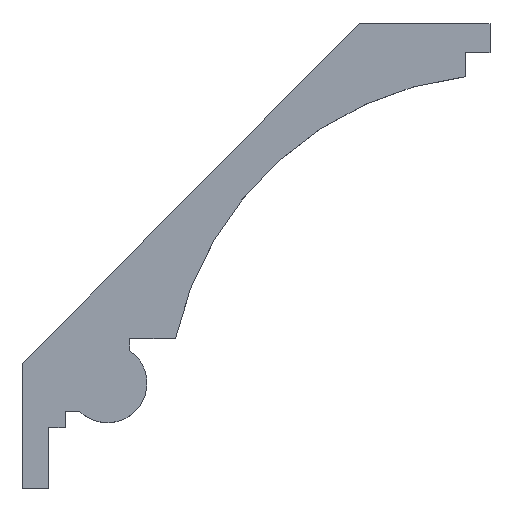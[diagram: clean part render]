
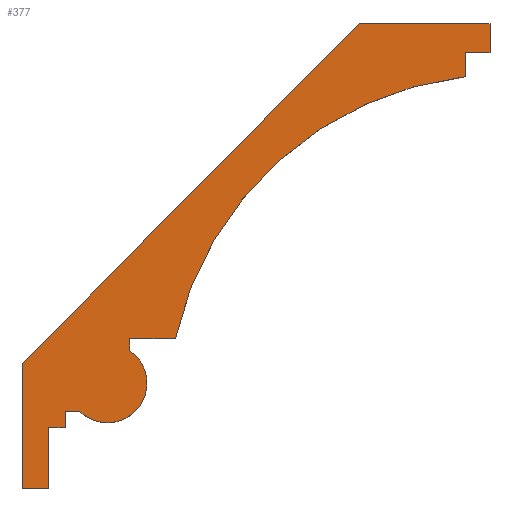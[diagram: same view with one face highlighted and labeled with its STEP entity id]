
A CAD part, top view. The second image highlights one B-rep face of the part: STEP entity #377.
In plain terms, the highlighted planar face has unit normal (0, 0, 1).
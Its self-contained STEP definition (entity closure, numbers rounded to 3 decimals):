
#3 = FACE_OUTER_BOUND ( 'NONE', #385, .T. ) ;
#12 = VERTEX_POINT ( 'NONE', #52 ) ;
#13 = VERTEX_POINT ( 'NONE', #378 ) ;
#18 = VECTOR ( 'NONE', #345, 1000. ) ;
#20 = EDGE_CURVE ( 'NONE', #12, #162, #148, .T. ) ;
#24 = LINE ( 'NONE', #540, #18 ) ;
#30 = VECTOR ( 'NONE', #215, 1000. ) ;
#31 = CARTESIAN_POINT ( 'NONE',  ( 124.903, 49.358, 10. ) ) ;
#46 = ORIENTED_EDGE ( 'NONE', *, *, #471, .T. ) ;
#48 = CARTESIAN_POINT ( 'NONE',  ( 57.248, 46.8, 10. ) ) ;
#50 = CARTESIAN_POINT ( 'NONE',  ( 67.143, 60.523, 10. ) ) ;
#52 = CARTESIAN_POINT ( 'NONE',  ( 50.557, 56.566, 10. ) ) ;
#60 = CARTESIAN_POINT ( 'NONE',  ( 67.143, 60.523, 10. ) ) ;
#67 = LINE ( 'NONE', #533, #528 ) ;
#69 = CARTESIAN_POINT ( 'NONE',  ( 59.478, 49.248, 10. ) ) ;
#70 = VERTEX_POINT ( 'NONE', #436 ) ;
#81 = CARTESIAN_POINT ( 'NONE',  ( 118.912, 100.907, 10. ) ) ;
#89 = ORIENTED_EDGE ( 'NONE', *, *, #487, .T. ) ;
#91 = DIRECTION ( 'NONE',  ( -1., 0., 0. ) ) ;
#97 = ORIENTED_EDGE ( 'NONE', *, *, #20, .T. ) ;
#102 = CARTESIAN_POINT ( 'NONE',  ( 50.557, 37.407, 10. ) ) ;
#103 = VERTEX_POINT ( 'NONE', #60 ) ;
#109 = DIRECTION ( 'NONE',  ( 0., 0., 1. ) ) ;
#121 = VECTOR ( 'NONE', #479, 1000. ) ;
#123 = DIRECTION ( 'NONE',  ( -0.704, -0.711, 0. ) ) ;
#135 = DIRECTION ( 'NONE',  ( 1., 0., 0. ) ) ;
#141 = EDGE_CURVE ( 'NONE', #264, #394, #285, .T. ) ;
#144 = VECTOR ( 'NONE', #380, 1000. ) ;
#148 = LINE ( 'NONE', #150, #245 ) ;
#149 = EDGE_CURVE ( 'NONE', #325, #392, #151, .T. ) ;
#150 = CARTESIAN_POINT ( 'NONE',  ( 50.557, 37.407, 10. ) ) ;
#151 = LINE ( 'NONE', #337, #144 ) ;
#155 = EDGE_CURVE ( 'NONE', #344, #520, #191, .T. ) ;
#160 = VECTOR ( 'NONE', #135, 1000. ) ;
#162 = VERTEX_POINT ( 'NONE', #102 ) ;
#172 = CARTESIAN_POINT ( 'NONE',  ( 102.566, 109.092, 10. ) ) ;
#176 = LINE ( 'NONE', #172, #588 ) ;
#180 = CARTESIAN_POINT ( 'NONE',  ( 118.912, 104.574, 10. ) ) ;
#191 = LINE ( 'NONE', #573, #485 ) ;
#212 = DIRECTION ( 'NONE',  ( 0., 0., -1. ) ) ;
#215 = DIRECTION ( 'NONE',  ( 1., 0., 0. ) ) ;
#221 = ORIENTED_EDGE ( 'NONE', *, *, #580, .T. ) ;
#223 = PLANE ( 'NONE',  #348 ) ;
#229 = EDGE_CURVE ( 'NONE', #593, #70, #278, .T. ) ;
#237 = CIRCLE ( 'NONE', #566, 6.1 ) ;
#243 = ORIENTED_EDGE ( 'NONE', *, *, #422, .T. ) ;
#245 = VECTOR ( 'NONE', #522, 1000. ) ;
#246 = ORIENTED_EDGE ( 'NONE', *, *, #384, .T. ) ;
#247 = CARTESIAN_POINT ( 'NONE',  ( 63.731, 53.621, 10. ) ) ;
#254 = CARTESIAN_POINT ( 'NONE',  ( 122.737, 104.574, 10. ) ) ;
#255 = ORIENTED_EDGE ( 'NONE', *, *, #149, .T. ) ;
#261 = DIRECTION ( 'NONE',  ( 1., 0., 0. ) ) ;
#264 = VERTEX_POINT ( 'NONE', #48 ) ;
#270 = CARTESIAN_POINT ( 'NONE',  ( 57.248, 46.8, 10. ) ) ;
#275 = CIRCLE ( 'NONE', #596, 51.896 ) ;
#278 = LINE ( 'NONE', #318, #577 ) ;
#279 = VERTEX_POINT ( 'NONE', #463 ) ;
#280 = DIRECTION ( 'NONE',  ( 1., 0., 0. ) ) ;
#285 = LINE ( 'NONE', #426, #121 ) ;
#296 = DIRECTION ( 'NONE',  ( 1., 0., 0. ) ) ;
#317 = LINE ( 'NONE', #270, #160 ) ;
#318 = CARTESIAN_POINT ( 'NONE',  ( 122.737, 109.092, 10. ) ) ;
#319 = ORIENTED_EDGE ( 'NONE', *, *, #155, .T. ) ;
#325 = VERTEX_POINT ( 'NONE', #81 ) ;
#327 = DIRECTION ( 'NONE',  ( 0., 0., 1. ) ) ;
#336 = VERTEX_POINT ( 'NONE', #499 ) ;
#337 = CARTESIAN_POINT ( 'NONE',  ( 118.912, 104.574, 10. ) ) ;
#344 = VERTEX_POINT ( 'NONE', #511 ) ;
#345 = DIRECTION ( 'NONE',  ( 1., 0., 0. ) ) ;
#348 = AXIS2_PLACEMENT_3D ( 'NONE', #364, #327, #280 ) ;
#360 = CARTESIAN_POINT ( 'NONE',  ( 57.248, 49.248, 10. ) ) ;
#364 = CARTESIAN_POINT ( 'NONE',  ( 124.903, 49.358, 10. ) ) ;
#377 = ADVANCED_FACE ( 'NONE', ( #3 ), #223, .T. ) ;
#378 = CARTESIAN_POINT ( 'NONE',  ( 102.566, 109.092, 10. ) ) ;
#380 = DIRECTION ( 'NONE',  ( 0., 1., 0. ) ) ;
#382 = ORIENTED_EDGE ( 'NONE', *, *, #564, .T. ) ;
#384 = EDGE_CURVE ( 'NONE', #336, #103, #415, .T. ) ;
#385 = EDGE_LOOP ( 'NONE', ( #221, #255, #46, #496, #529, #89, #97, #382, #319, #437, #388, #243, #570, #246, #442 ) ) ;
#388 = ORIENTED_EDGE ( 'NONE', *, *, #141, .T. ) ;
#391 = CARTESIAN_POINT ( 'NONE',  ( 54.643, 46.8, 10. ) ) ;
#392 = VERTEX_POINT ( 'NONE', #180 ) ;
#394 = VERTEX_POINT ( 'NONE', #360 ) ;
#400 = EDGE_CURVE ( 'NONE', #70, #13, #176, .T. ) ;
#415 = LINE ( 'NONE', #50, #508 ) ;
#422 = EDGE_CURVE ( 'NONE', #394, #489, #565, .T. ) ;
#426 = CARTESIAN_POINT ( 'NONE',  ( 57.248, 46.8, 10. ) ) ;
#431 = EDGE_CURVE ( 'NONE', #520, #264, #317, .T. ) ;
#436 = CARTESIAN_POINT ( 'NONE',  ( 122.737, 109.092, 10. ) ) ;
#437 = ORIENTED_EDGE ( 'NONE', *, *, #431, .T. ) ;
#438 = DIRECTION ( 'NONE',  ( 1., 0., 0. ) ) ;
#442 = ORIENTED_EDGE ( 'NONE', *, *, #516, .T. ) ;
#446 = LINE ( 'NONE', #602, #30 ) ;
#453 = LINE ( 'NONE', #254, #537 ) ;
#463 = CARTESIAN_POINT ( 'NONE',  ( 74.221, 60.523, 10. ) ) ;
#471 = EDGE_CURVE ( 'NONE', #392, #593, #453, .T. ) ;
#477 = DIRECTION ( 'NONE',  ( 0., 1., 0. ) ) ;
#479 = DIRECTION ( 'NONE',  ( 0., 1., 0. ) ) ;
#485 = VECTOR ( 'NONE', #477, 1000. ) ;
#487 = EDGE_CURVE ( 'NONE', #13, #12, #67, .T. ) ;
#489 = VERTEX_POINT ( 'NONE', #69 ) ;
#491 = CARTESIAN_POINT ( 'NONE',  ( 122.737, 104.574, 10. ) ) ;
#496 = ORIENTED_EDGE ( 'NONE', *, *, #229, .T. ) ;
#499 = CARTESIAN_POINT ( 'NONE',  ( 67.143, 58.677, 10. ) ) ;
#508 = VECTOR ( 'NONE', #515, 1000. ) ;
#511 = CARTESIAN_POINT ( 'NONE',  ( 54.643, 37.407, 10. ) ) ;
#515 = DIRECTION ( 'NONE',  ( 0., 1., 0. ) ) ;
#516 = EDGE_CURVE ( 'NONE', #103, #279, #446, .T. ) ;
#520 = VERTEX_POINT ( 'NONE', #391 ) ;
#522 = DIRECTION ( 'NONE',  ( 0., -1., 0. ) ) ;
#528 = VECTOR ( 'NONE', #123, 1000. ) ;
#529 = ORIENTED_EDGE ( 'NONE', *, *, #400, .T. ) ;
#533 = CARTESIAN_POINT ( 'NONE',  ( 50.557, 56.566, 10. ) ) ;
#537 = VECTOR ( 'NONE', #261, 1000. ) ;
#540 = CARTESIAN_POINT ( 'NONE',  ( 50.557, 37.407, 10. ) ) ;
#550 = DIRECTION ( 'NONE',  ( 1., 0., 0. ) ) ;
#553 = EDGE_CURVE ( 'NONE', #489, #336, #237, .T. ) ;
#555 = CARTESIAN_POINT ( 'NONE',  ( 59.478, 49.248, 10. ) ) ;
#564 = EDGE_CURVE ( 'NONE', #162, #344, #24, .T. ) ;
#565 = LINE ( 'NONE', #555, #591 ) ;
#566 = AXIS2_PLACEMENT_3D ( 'NONE', #247, #109, #438 ) ;
#570 = ORIENTED_EDGE ( 'NONE', *, *, #553, .T. ) ;
#573 = CARTESIAN_POINT ( 'NONE',  ( 54.643, 37.407, 10. ) ) ;
#577 = VECTOR ( 'NONE', #598, 1000. ) ;
#580 = EDGE_CURVE ( 'NONE', #279, #325, #275, .T. ) ;
#588 = VECTOR ( 'NONE', #91, 1000. ) ;
#591 = VECTOR ( 'NONE', #550, 1000. ) ;
#593 = VERTEX_POINT ( 'NONE', #491 ) ;
#596 = AXIS2_PLACEMENT_3D ( 'NONE', #31, #212, #296 ) ;
#598 = DIRECTION ( 'NONE',  ( 0., 1., 0. ) ) ;
#602 = CARTESIAN_POINT ( 'NONE',  ( 74.221, 60.523, 10. ) ) ;
